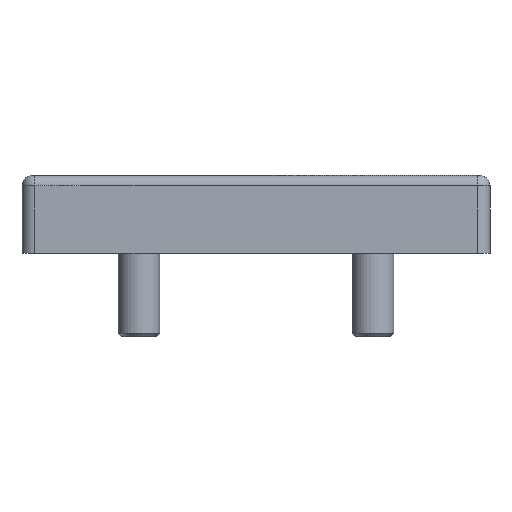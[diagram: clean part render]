
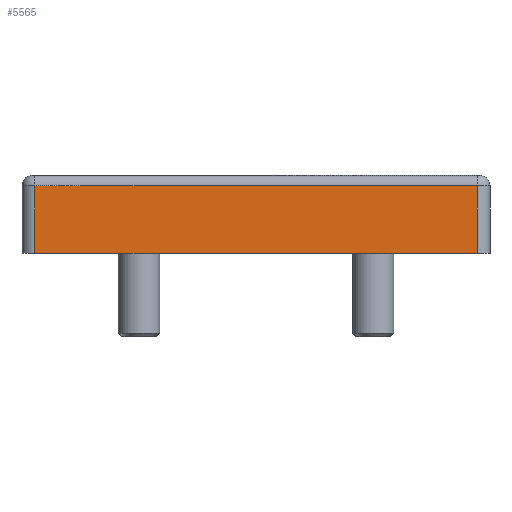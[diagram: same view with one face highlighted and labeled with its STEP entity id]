
A CAD part, left-side view. The second image highlights one B-rep face of the part: STEP entity #5565.
In plain terms, the highlighted planar face has unit normal (-1, 0, 0).
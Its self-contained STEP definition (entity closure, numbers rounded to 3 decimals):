
#4 = DIRECTION ( 'NONE',  ( 0., 0., 1. ) ) ;
#257 = VERTEX_POINT ( 'NONE', #5858 ) ;
#290 = ORIENTED_EDGE ( 'NONE', *, *, #2844, .T. ) ;
#300 = EDGE_CURVE ( 'NONE', #1317, #2995, #3437, .T. ) ;
#470 = VECTOR ( 'NONE', #4, 1000. ) ;
#832 = LINE ( 'NONE', #3789, #5525 ) ;
#954 = CARTESIAN_POINT ( 'NONE',  ( -51.501, 56.601, -11.951 ) ) ;
#1100 = PLANE ( 'NONE',  #1406 ) ;
#1137 = DIRECTION ( 'NONE',  ( -1., 0., 0. ) ) ;
#1294 = EDGE_CURVE ( 'NONE', #2995, #2406, #3980, .T. ) ;
#1317 = VERTEX_POINT ( 'NONE', #1551 ) ;
#1406 = AXIS2_PLACEMENT_3D ( 'NONE', #3166, #1137, #5114 ) ;
#1551 = CARTESIAN_POINT ( 'NONE',  ( -51.501, 54.101, -11.951 ) ) ;
#1558 = DIRECTION ( 'NONE',  ( 0., 1., 0. ) ) ;
#2015 = CARTESIAN_POINT ( 'NONE',  ( -51.501, -30.899, -11.951 ) ) ;
#2270 = CARTESIAN_POINT ( 'NONE',  ( -51.501, -30.899, 1.049 ) ) ;
#2406 = VERTEX_POINT ( 'NONE', #2270 ) ;
#2449 = ORIENTED_EDGE ( 'NONE', *, *, #1294, .T. ) ;
#2844 = EDGE_CURVE ( 'NONE', #257, #1317, #832, .T. ) ;
#2934 = DIRECTION ( 'NONE',  ( 0., -1., 0. ) ) ;
#2995 = VERTEX_POINT ( 'NONE', #2015 ) ;
#3166 = CARTESIAN_POINT ( 'NONE',  ( -51.501, 56.601, -11.951 ) ) ;
#3419 = CARTESIAN_POINT ( 'NONE',  ( -51.501, -30.899, -11.951 ) ) ;
#3437 = LINE ( 'NONE', #954, #4800 ) ;
#3560 = LINE ( 'NONE', #5518, #4251 ) ;
#3734 = DIRECTION ( 'NONE',  ( 0., 0., -1. ) ) ;
#3789 = CARTESIAN_POINT ( 'NONE',  ( -51.501, 54.101, -11.951 ) ) ;
#3980 = LINE ( 'NONE', #3419, #470 ) ;
#4081 = FACE_OUTER_BOUND ( 'NONE', #5254, .T. ) ;
#4251 = VECTOR ( 'NONE', #1558, 1000. ) ;
#4610 = EDGE_CURVE ( 'NONE', #2406, #257, #3560, .T. ) ;
#4800 = VECTOR ( 'NONE', #2934, 1000. ) ;
#5010 = ORIENTED_EDGE ( 'NONE', *, *, #4610, .T. ) ;
#5114 = DIRECTION ( 'NONE',  ( 0., -1., 0. ) ) ;
#5254 = EDGE_LOOP ( 'NONE', ( #2449, #5010, #290, #5926 ) ) ;
#5518 = CARTESIAN_POINT ( 'NONE',  ( -51.501, 56.601, 1.049 ) ) ;
#5525 = VECTOR ( 'NONE', #3734, 1000. ) ;
#5565 = ADVANCED_FACE ( 'NONE', ( #4081 ), #1100, .T. ) ;
#5858 = CARTESIAN_POINT ( 'NONE',  ( -51.501, 54.101, 1.049 ) ) ;
#5926 = ORIENTED_EDGE ( 'NONE', *, *, #300, .T. ) ;
